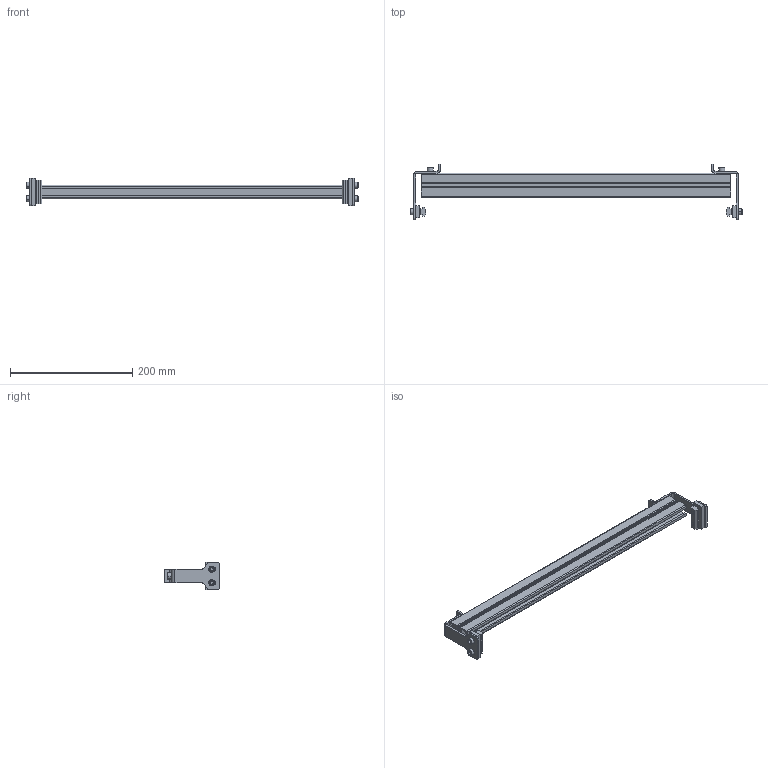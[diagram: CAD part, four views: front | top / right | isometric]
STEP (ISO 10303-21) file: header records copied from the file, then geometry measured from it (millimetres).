
FILE_DESCRIPTION (( 'STEP AP203' ), '1' );
FILE_NAME ('207137-20.STEP', '2023-03-01T21:16:49', ( '' ), ( '' ), 'SwSTEP 2.0', 'SolidWorks 2020', '' );
FILE_SCHEMA (( 'CONFIG_CONTROL_DESIGN' ));
Length unit declared in the file: inch
Products named in the file (8): 639971M_CAE; 207135-WW_207135-20; 202444; 207134; 207137-20; 9206XXM_920620M; 9206XXM_920614M; 200626M
Assembly tree (15 placements, depth 2):
  207137-20
    207134  x2
    207135-WW_207135-20
    202444  x2
    200626M  x2
    639971M_CAE  x2
    9206XXM_920614M  x2
    9206XXM_920620M  x4
Bounding box: 543.77 x 90.68 x 44.45 mm (x, y, z)
Volume: 250994.6 mm3; surface area: 154639.5 mm2
Topology: 15 solids, 15 shells, 432 faces, 1042 edges, 652 vertices
Faces by surface type: plane 258, cylinder 108, cone 66
Entity records: 8328 total; most frequent: CARTESIAN_POINT 1374, DIRECTION 1230, ORIENTED_EDGE 1212, EDGE_CURVE 606, LINE 462, VECTOR 462, VERTEX_POINT 388, AXIS2_PLACEMENT_3D 384
